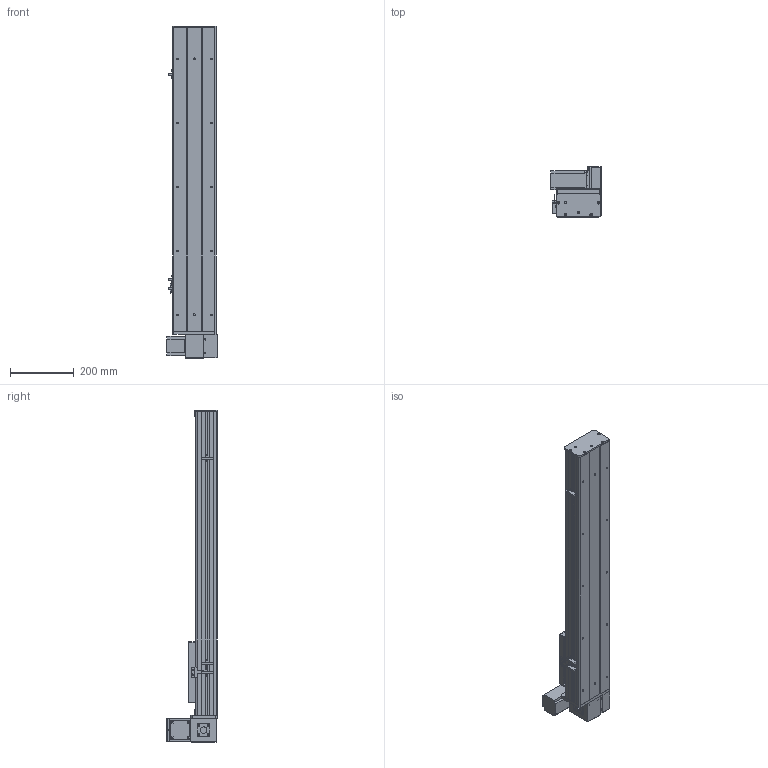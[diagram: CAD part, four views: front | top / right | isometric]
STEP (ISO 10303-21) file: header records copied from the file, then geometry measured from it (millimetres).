
FILE_DESCRIPTION (( 'STEP AP203' ), '1' );
FILE_NAME ('Y135CB-D90-S650-UL-P400W.STEP', '2020-02-18T07:11:02', ( '微软用户' ), ( '微软中国' ), 'SwSTEP 2.0', 'SolidWorks 2017', '' );
FILE_SCHEMA (( 'CONFIG_CONTROL_DESIGN' ));
Length unit declared in the file: millimetre
Products named in the file (18): Y100-135俋离換覜ん--; 35CB---喘謫眊楊擘啣; Y135C-陔俋离換覜結え-; 0B-埴倛裔啣; 5C--俋欶; 0B-源倛裔啣; C-雄赽釱--; 0B-萇儂楊擘啣; Y10B-耜蚾蟀諉啣----; san松下电机400不带刹车----; 00B-俋欶BM--; 5CB --掛极耜裔啣-; Y10B--々湍喘謫眊--666; C-詩湍揤踡え-陔; Y135CB-耜裔; Y135CB-D90-S650-UL-P400W; 135CB--詩湍-CE; 135CB---遴掛极.-
Assembly tree (21 placements, depth 2):
  Y135CB-D90-S650-UL-P400W
    Y135CB-耜裔
    135CB---遴掛极.-
    35CB---喘謫眊楊擘啣
    0B-埴倛裔啣
    0B-源倛裔啣
    0B-萇儂楊擘啣
    san松下电机400不带刹车----
    5CB --掛极耜裔啣-  x2
    C-詩湍揤踡え-陔  x2
    135CB--詩湍-CE
    Y100-135俋离換覜ん--  x3
    Y135C-陔俋离換覜結え-
    5C--俋欶
    C-雄赽釱--
    Y10B-耜蚾蟀諉啣----
    00B-俋欶BM--
    Y10B--々湍喘謫眊--666
Bounding box: 157 x 158.7 x 1038 mm (x, y, z)
Volume: 3477590.7 mm3; surface area: 1351311.3 mm2
Topology: 21 solids, 21 shells, 937 faces, 2491 edges, 1650 vertices
Faces by surface type: cylinder 465, plane 456, cone 16
Entity records: 28945 total; most frequent: DIRECTION 4807, CARTESIAN_POINT 4724, ORIENTED_EDGE 4458, EDGE_CURVE 2229, AXIS2_PLACEMENT_3D 1749, VERTEX_POINT 1478, VECTOR 1309, LINE 1309
